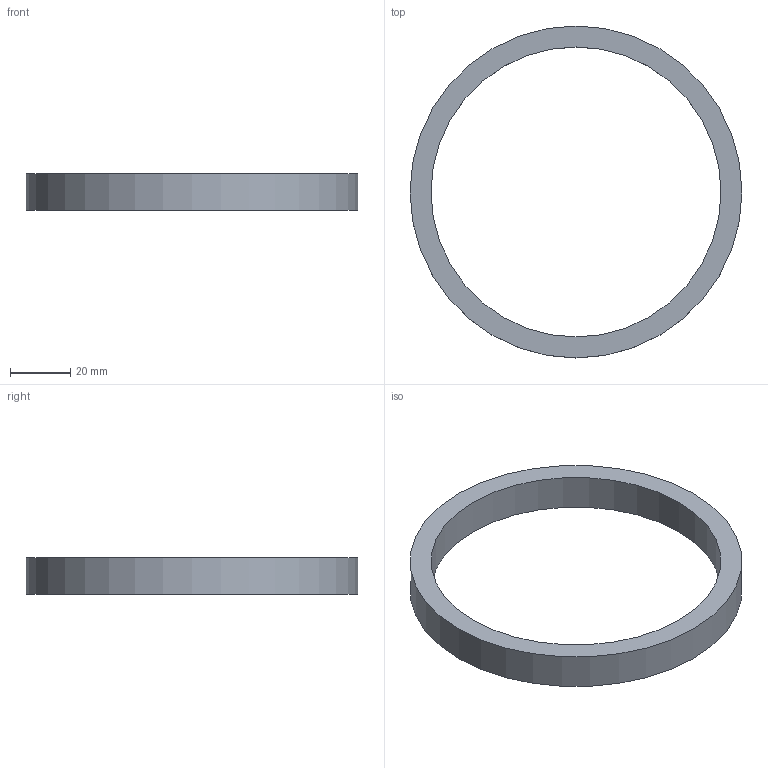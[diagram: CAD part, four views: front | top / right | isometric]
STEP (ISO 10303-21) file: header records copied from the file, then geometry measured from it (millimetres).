
FILE_DESCRIPTION(('Open CASCADE Model'),'2;1');
FILE_NAME('Open CASCADE Shape Model','2026-09-07T11:14:07',('Author'),( 'Open CASCADE'),'Open CASCADE STEP processor 7.9','Open CASCADE 7.9' ,'Unknown');
FILE_SCHEMA(('AUTOMOTIVE_DESIGN { 1 0 10303 214 1 1 1 1 }'));
Length unit declared in the file: millimetre
Products named in the file (1): Open CASCADE STEP translator 7.9 13
Bounding box: 109.9 x 109.9 x 12 mm (x, y, z)
Volume: 26973.8 mm3; surface area: 12257.9 mm2
Topology: 1 solids, 1 shells, 4 faces, 6 edges, 4 vertices
Faces by surface type: cylinder 2, plane 2
Full cylindrical faces by diameter (mm): 96 x1, 109.9 x1
Entity records: 185 total; most frequent: DIRECTION 31, CARTESIAN_POINT 28, ORIENTED_EDGE 12, PCURVE 12, DEFINITIONAL_REPRESENTATION 12, AXIS2_PLACEMENT_3D 9, LINE 9, VECTOR 9
